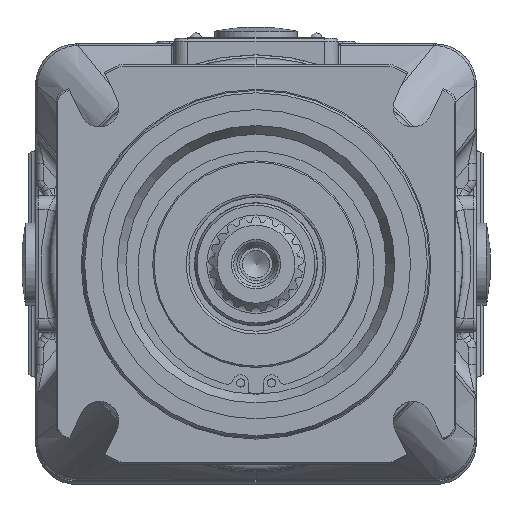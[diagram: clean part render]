
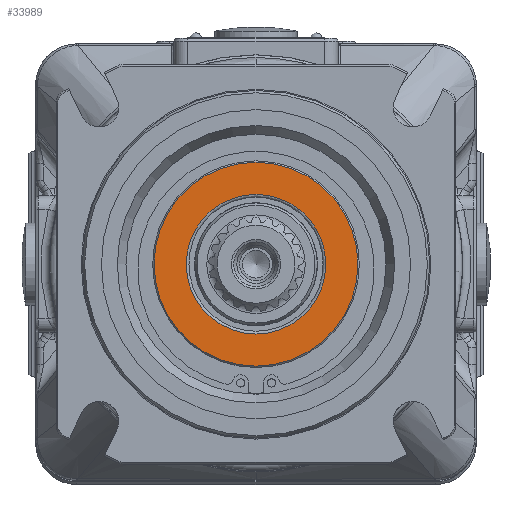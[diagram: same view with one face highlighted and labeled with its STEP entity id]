
A CAD part, front view. The second image highlights one B-rep face of the part: STEP entity #33989.
In plain terms, the highlighted planar face has unit normal (0, -1, 0).
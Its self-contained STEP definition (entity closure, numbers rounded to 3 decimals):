
#6761=PLANE('',#37094);
#7433=FACE_BOUND('',#10997,.T.);
#8850=FACE_OUTER_BOUND('',#10996,.T.);
#10996=EDGE_LOOP('',(#26755));
#10997=EDGE_LOOP('',(#26756));
#13079=CIRCLE('',#37093,25.5);
#13080=CIRCLE('',#37095,37.25);
#15044=VERTEX_POINT('',#62237);
#15045=VERTEX_POINT('',#62240);
#19150=EDGE_CURVE('',#15044,#15044,#13079,.T.);
#19151=EDGE_CURVE('',#15045,#15045,#13080,.T.);
#26755=ORIENTED_EDGE('',*,*,#19151,.F.);
#26756=ORIENTED_EDGE('',*,*,#19150,.F.);
#33989=ADVANCED_FACE('',(#8850,#7433),#6761,.T.);
#37093=AXIS2_PLACEMENT_3D('',#62238,#43763,#43764);
#37094=AXIS2_PLACEMENT_3D('',#62239,#43765,#43766);
#37095=AXIS2_PLACEMENT_3D('',#62241,#43767,#43768);
#43763=DIRECTION('center_axis',(0.,-1.,0.));
#43764=DIRECTION('ref_axis',(0.,0.,
-1.));
#43765=DIRECTION('center_axis',(0.,-1.,0.));
#43766=DIRECTION('ref_axis',(0.,0.,-1.));
#43767=DIRECTION('center_axis',(0.,1.,0.));
#43768=DIRECTION('ref_axis',(0.,0.,
-1.));
#62237=CARTESIAN_POINT('',(0.,-154.9,25.5));
#62238=CARTESIAN_POINT('Origin',(0.,-154.9,0.));
#62239=CARTESIAN_POINT('Origin',(0.,-154.9,31.375));
#62240=CARTESIAN_POINT('',(0.,-154.9,37.25));
#62241=CARTESIAN_POINT('Origin',(0.,-154.9,0.));
